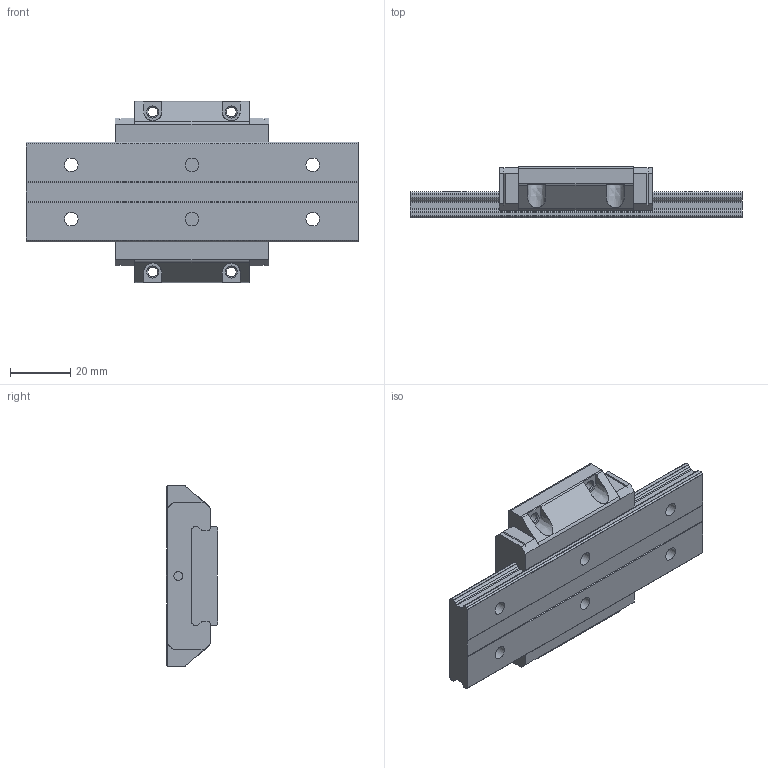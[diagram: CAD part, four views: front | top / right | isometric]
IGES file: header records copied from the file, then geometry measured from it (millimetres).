
Start section: Data from Parasolid IGES Translator 26.0.171, Copyright(c) 2006 Siemens PLM Software. All Rights Reserved.
Global section: file name: SHW17CA1SSM-110LM_G15_0_Without_grease_nipple_29-5_0_0_01.igs; native system: By Siemens PLM Incorporated; preprocessor: XPlus GENERIC/IGES 26.0.171; author: Noname; organization: Noname; date: 20240517.081802; units: millimetre
Bounding box: 110 x 17 x 60 mm (x, y, z)
Surface area: 20483.2 mm2 (no closed solid volume)
Topology: 0 solids, 0 shells, 188 faces, 1020 edges, 968 vertices
Faces by surface type: extrusion 108, revolution 80
